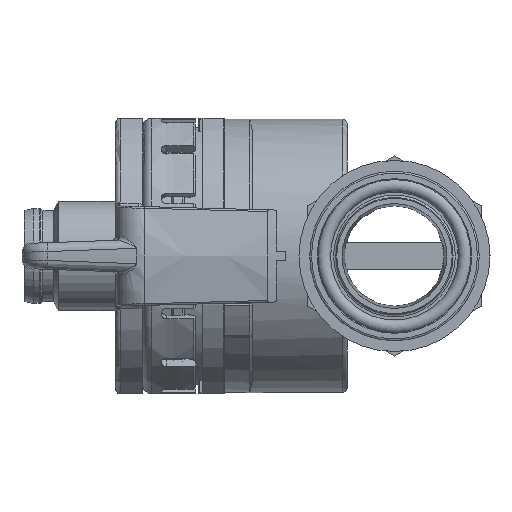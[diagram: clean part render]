
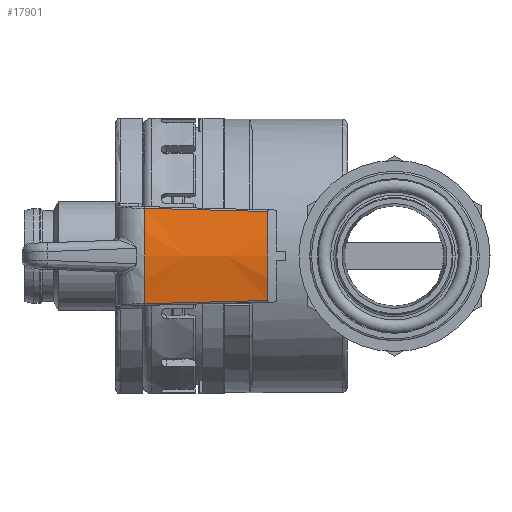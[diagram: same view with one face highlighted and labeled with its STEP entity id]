
A CAD part, left-side view. The second image highlights one B-rep face of the part: STEP entity #17901.
In plain terms, the highlighted conical face has half-angle 4 degrees and reference radius 19.2 mm.
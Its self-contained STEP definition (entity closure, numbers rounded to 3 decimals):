
#368=CONICAL_SURFACE('',#19791,19.2,0.07);
#1485=B_SPLINE_CURVE_WITH_KNOTS('',3,(#39637,#39638,#39639,#39640,#39641,
#39642,#39643,#39644,#39645,#39646),.UNSPECIFIED.,.F.,.F.,(4,2,2,2,4),(0.,
0.037,0.185,0.776,1.),.UNSPECIFIED.);
#1486=B_SPLINE_CURVE_WITH_KNOTS('',3,(#39649,#39650,#39651,#39652,#39653,
#39654,#39655,#39656),.UNSPECIFIED.,.F.,.F.,(4,2,2,4),(0.,0.037,
0.628,1.),.UNSPECIFIED.);
#4840=FACE_OUTER_BOUND('',#5904,.T.);
#5904=EDGE_LOOP('',(#15678,#15679,#15680,#15681));
#6680=CIRCLE('',#19772,18.976);
#6682=CIRCLE('',#19792,18.032);
#8267=VERTEX_POINT('',#39174);
#8268=VERTEX_POINT('',#39185);
#8323=VERTEX_POINT('',#39636);
#8324=VERTEX_POINT('',#39647);
#10750=EDGE_CURVE('',#8268,#8267,#6680,.T.);
#10806=EDGE_CURVE('',#8267,#8323,#1485,.T.);
#10807=EDGE_CURVE('',#8323,#8324,#6682,.T.);
#10808=EDGE_CURVE('',#8324,#8268,#1486,.T.);
#15678=ORIENTED_EDGE('',*,*,#10806,.T.);
#15679=ORIENTED_EDGE('',*,*,#10807,.T.);
#15680=ORIENTED_EDGE('',*,*,#10808,.T.);
#15681=ORIENTED_EDGE('',*,*,#10750,.T.);
#17901=ADVANCED_FACE('',(#4840),#368,.T.);
#19772=AXIS2_PLACEMENT_3D('',#39186,#24179,#24180);
#19791=AXIS2_PLACEMENT_3D('',#39635,#24241,#24242);
#19792=AXIS2_PLACEMENT_3D('',#39648,#24243,#24244);
#24179=DIRECTION('center_axis',(0.,-1.,0.));
#24180=DIRECTION('ref_axis',(0.,0.,1.));
#24241=DIRECTION('center_axis',(0.,1.,0.));
#24242=DIRECTION('ref_axis',(0.,0.,1.));
#24243=DIRECTION('center_axis',(0.,1.,0.));
#24244=DIRECTION('ref_axis',(0.,0.,-1.));
#39174=CARTESIAN_POINT('',(-19.039,9.391,-5.235));
#39185=CARTESIAN_POINT('',(-19.039,9.391,5.235));
#39186=CARTESIAN_POINT('Origin',(-0.8,9.391,0.));
#39635=CARTESIAN_POINT('Origin',(-0.8,12.6,0.));
#39636=CARTESIAN_POINT('',(-18.159,-4.105,-4.88));
#39637=CARTESIAN_POINT('Ctrl Pts',(-19.039,9.391,-5.235));
#39638=CARTESIAN_POINT('Ctrl Pts',(-19.028,9.224,-5.231));
#39639=CARTESIAN_POINT('Ctrl Pts',(-19.017,9.058,-5.226));
#39640=CARTESIAN_POINT('Ctrl Pts',(-18.963,8.227,-5.205));
#39641=CARTESIAN_POINT('Ctrl Pts',(-18.92,7.562,-5.187));
#39642=CARTESIAN_POINT('Ctrl Pts',(-18.703,4.237,-5.1));
#39643=CARTESIAN_POINT('Ctrl Pts',(-18.53,1.577,-5.03));
#39644=CARTESIAN_POINT('Ctrl Pts',(-18.29,-2.091,-4.933));
#39645=CARTESIAN_POINT('Ctrl Pts',(-18.225,-3.098,
-4.907));
#39646=CARTESIAN_POINT('Ctrl Pts',(-18.159,-4.105,-4.88));
#39647=CARTESIAN_POINT('',(-18.159,-4.105,4.88));
#39648=CARTESIAN_POINT('Origin',(-0.8,-4.105,0.));
#39649=CARTESIAN_POINT('Ctrl Pts',(-18.159,-4.105,
4.88));
#39650=CARTESIAN_POINT('Ctrl Pts',(-18.17,-3.939,
4.885));
#39651=CARTESIAN_POINT('Ctrl Pts',(-18.181,-3.772,
4.889));
#39652=CARTESIAN_POINT('Ctrl Pts',(-18.365,-0.946,
4.963));
#39653=CARTESIAN_POINT('Ctrl Pts',(-18.538,1.714,5.033));
#39654=CARTESIAN_POINT('Ctrl Pts',(-18.821,6.046,5.147));
#39655=CARTESIAN_POINT('Ctrl Pts',(-18.93,7.719,5.191));
#39656=CARTESIAN_POINT('Ctrl Pts',(-19.039,9.391,5.235));
